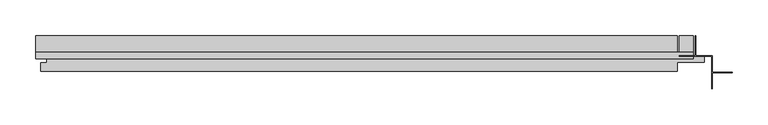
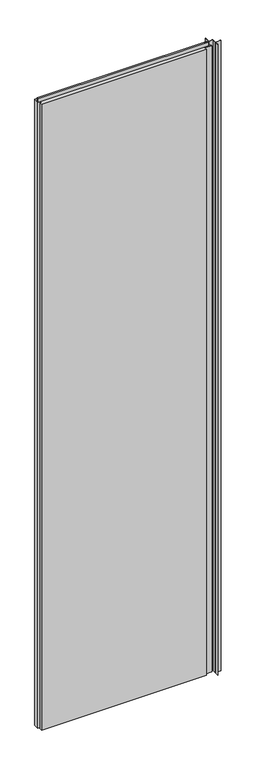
"""IFC4 building model written with IfcOpenShell, lengths in millimetres: plate geometry, Trimo_Qbiss Screen_Normal Panel-VERTICAL : HR - B."""

from ifc_helpers import new_model, si_unit, frame, origin, place, context, project, spatial, polyline, outline, extrude, source, transform, mapped, element, save


def plate_34d96444(model_context):
    return source(origin(), model_context, "Body", "SweptSolid", [
        extrude(outline(polyline([(496.0, 97.0), (477.0, 97.0), (477.0, 126.0), (496.0, 126.0), (496.0, 97.0)])), frame((0.0, 0.0, 12.5), z_axis=(0.0, 0.0, 1.0), x_axis=(1.0, 0.0, 0.0)), (0.0, 0.0, 1.0), 3575.0),
        extrude(outline(polyline([(-425.0, 93.9), (-425.0, 102.6), (496.0, 102.6), (496.0, 93.9), (-425.0, 93.9)])), frame((0.0, 0.0, 3590.5), z_axis=(0.0, 0.0, 1.0), x_axis=(1.0, 0.0, 0.0)), (0.0, 0.0, 1.0), 19.0),
        extrude(outline(polyline([(474.0, 97.0), (511.5, 97.0), (511.5, 89.0), (474.0, 89.0), (474.0, 76.0), (-418.0, 76.0), (-418.0, 88.0), (-409.5, 88.0), (-409.5, 98.0), (-425.0, 98.0), (-425.0, 126.0), (474.0, 126.0), (474.0, 97.0)])), frame((0.0, 0.0, 12.5), z_axis=(0.0, 0.0, 1.0), x_axis=(1.0, 0.0, 0.0)), (0.0, 0.0, 1.0), 3575.0),
        extrude(outline(polyline([(499.0, 126.0), (499.8, 126.0), (499.8, 97.8), (522.8, 97.8), (522.8, 74.8), (551.0, 74.8), (551.0, 74.0), (522.8, 74.0), (522.8, 52.0), (522.0, 52.0), (522.0, 97.0), (477.0, 97.0), (477.0, 97.8), (499.0, 97.8), (499.0, 126.0)])), frame((0.0, 0.0, 12.5), z_axis=(0.0, 0.0, 1.0), x_axis=(1.0, 0.0, 0.0)), (0.0, 0.0, 1.0), 3600.0),
    ])


if __name__ == "__main__":
    model = new_model("IFC4")
    model_context = context("Model", 3, world=origin())
    ifc_project = project(units=[si_unit("LENGTHUNIT", "METRE", prefix="MILLI")], contexts=[model_context])
    site = spatial("IfcSite", under=ifc_project)
    building = spatial("IfcBuilding", under=site)
    placement = place(None, origin())
    plate_shape = plate_34d96444(model_context)
    element("IfcPlate", 1, ObjectType="Trimo_Qbiss Screen_Normal Panel-VERTICAL : HR - B", at=placement, inside=building, context=model_context, shape_type="MappedRepresentation", body=[
        mapped(plate_shape, transform((0.0, 0.0, 0.0), x_axis=(1.0, 0.0, 0.0), y_axis=(0.0, 1.0, 0.0), z_axis=(0.0, 0.0, 1.0))),
    ])
    save(model, "model.ifc")
